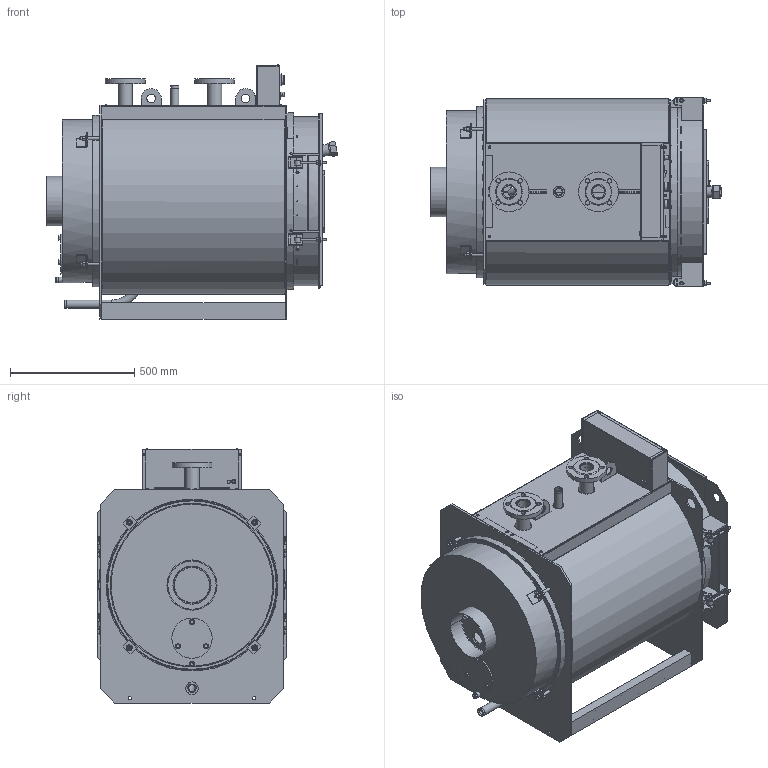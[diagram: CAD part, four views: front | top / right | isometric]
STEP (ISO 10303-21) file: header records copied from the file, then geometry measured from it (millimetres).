
FILE_DESCRIPTION(('STEP AP242'), '1');
FILE_NAME('TITAN Prom 4 (100 êÂò)', '', ('UNSPECIFIED'), ('UNSPECIFIED'), 'ASCON STEP Converter 1.6', 'ASCON Math Kernel', '');
FILE_SCHEMA(('AP242_MANAGED_MODEL_BASED_3D_ENGINEERING_MIM_LF { 1 0 10303 442 1 1 4 }'));
Length unit declared in the file: millimetre
Bounding box: 1170.29 x 759 x 1023.16 mm (x, y, z)
Volume: 54524711.8 mm3; surface area: 11813910.3 mm2
Topology: 52 solids, 52 shells, 3179 faces, 7748 edges, 4964 vertices
Faces by surface type: plane 1949, cylinder 904, cone 215, bspline 62, torus 34, extrusion 9, sphere 6
Full cylindrical faces by diameter (mm): 2 x4, 2.8 x27, 3 x1, 3.2 x5, 3.5 x8, 3.6 x4, 4 x12, 4.1 x2, 4.5 x12, 4.8 x1, 5 x13, 6 x7, 7 x2, 7.6 x1, 8 x3, 8.376 x10, 9 x2, 9.25 x4, 9.5 x8, 9.728 x1, 10 x33, 10.106 x5, 10.5 x1, 11 x19, 12 x15, 13 x13, 13.5 x4, 14 x9, 14.5 x1, 15 x3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
Entity records: 171453 total; most frequent: CARTESIAN_POINT 73749, ORIENTED_EDGE 14316, DIRECTION 14064, EDGE_CURVE 7158, AXIS2_PLACEMENT_3D 4973, VERTEX_POINT 4952, EDGE_LOOP 4368, VECTOR 4118
